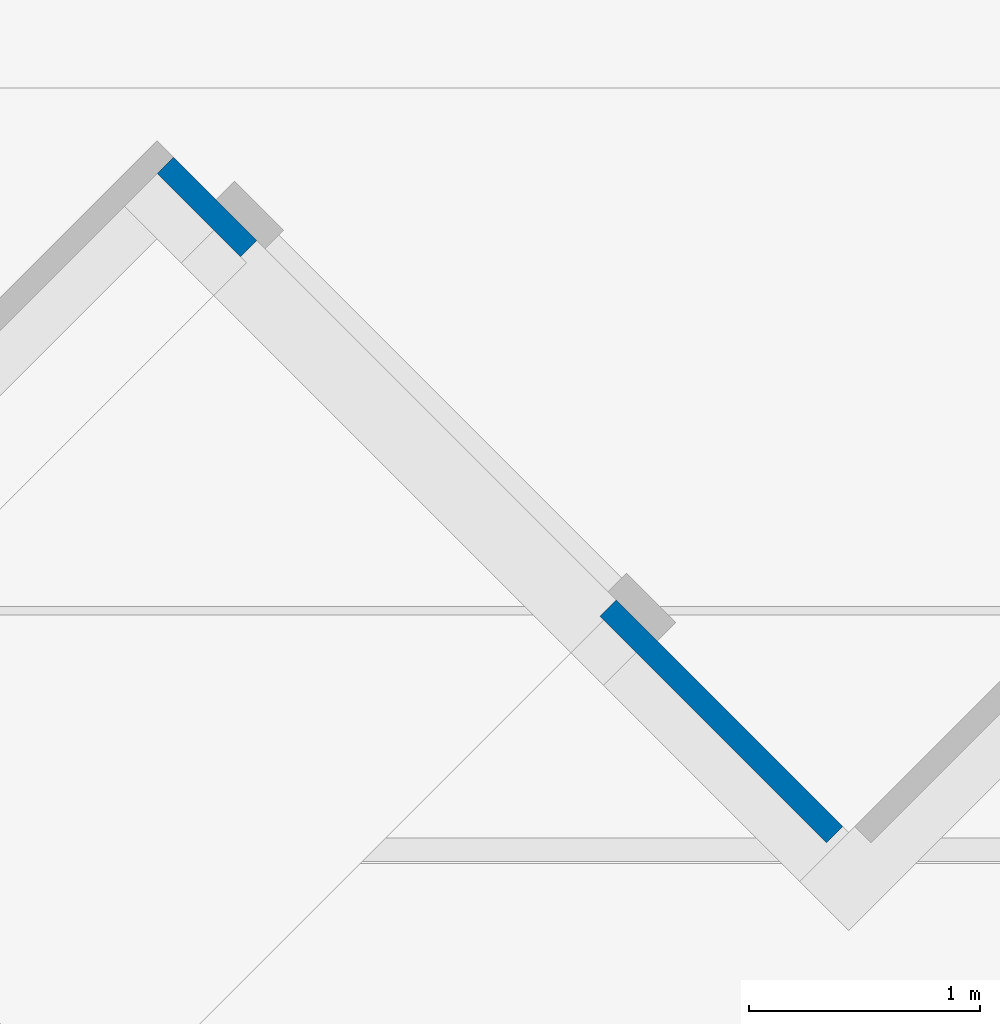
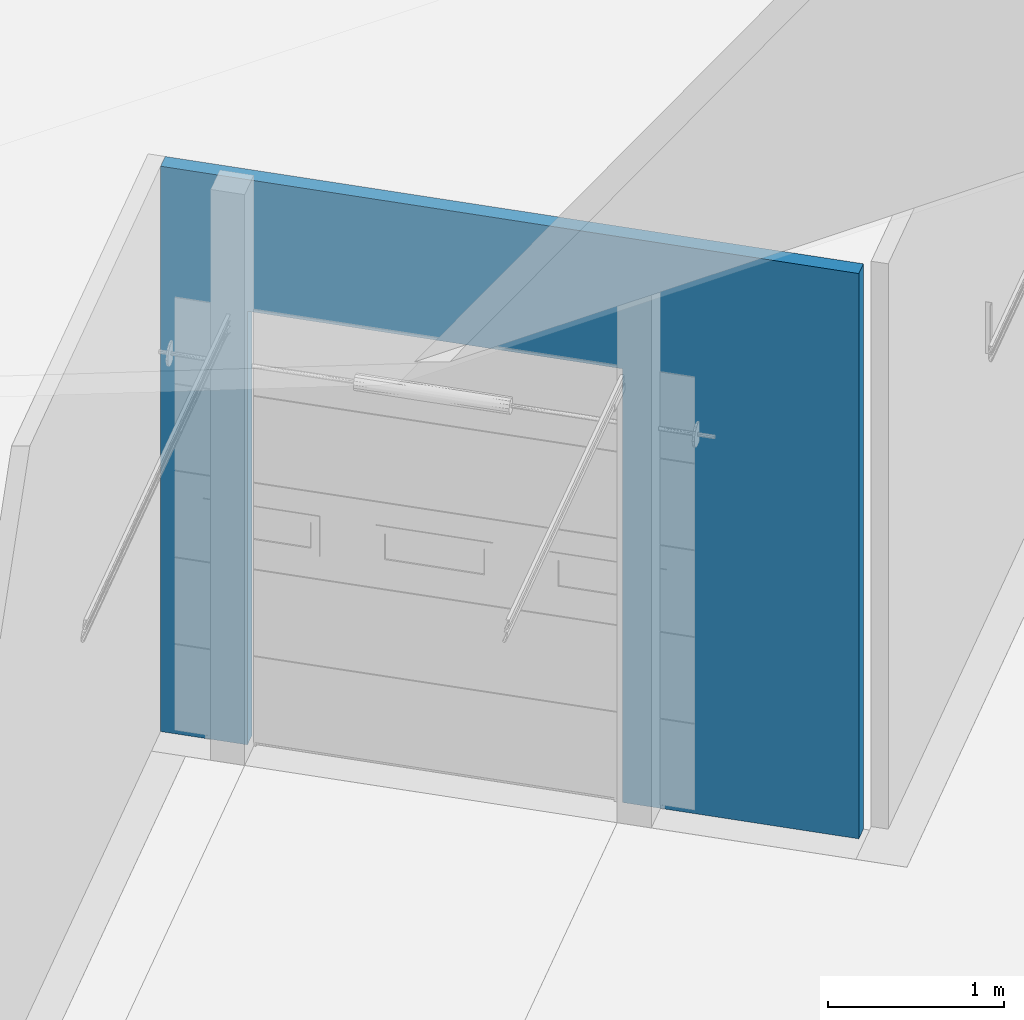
# One storey, part 28 of 64: 1 wall, 1 opening.
"""IFC2X3 building model written with IfcOpenShell, lengths in millimetres."""

from ifc_helpers import new_model, entity, si_unit, converted_unit, derived_unit, direction, frame, frame_2d, origin, place, context, subcontext, project, spatial, rectangle, extrude, material, layer, layer_set, layer_usage, type_object, element, save


model = new_model("IFC2X3")

# Units and contexts
model_context = context("Model", 3, precision=0.01, world=origin(), true_north=direction((4.05803320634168e-15, -1.0)))
body_context = subcontext(model_context, "Body", "Model", "MODEL_VIEW")
ifc_project = project(units=[si_unit("LENGTHUNIT", "METRE", prefix="MILLI"), si_unit("AREAUNIT", "SQUARE_METRE"), si_unit("VOLUMEUNIT", "CUBIC_METRE"), converted_unit("PLANEANGLEUNIT", "DEGREE", entity("IfcRatioMeasure", 0.0174532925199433), si_unit("PLANEANGLEUNIT", "RADIAN"), dimensions=[0, 0, 0, 0, 0, 0, 0]), si_unit("MASSUNIT", "GRAM", prefix="KILO"), derived_unit("MASSDENSITYUNIT", [(si_unit("MASSUNIT", "GRAM", prefix="KILO"), 1), (si_unit("LENGTHUNIT", "METRE"), -3)]), si_unit("TIMEUNIT", "SECOND"), si_unit("FREQUENCYUNIT", "HERTZ"), si_unit("THERMODYNAMICTEMPERATUREUNIT", "DEGREE_CELSIUS"), derived_unit("THERMALTRANSMITTANCEUNIT", [(si_unit("MASSUNIT", "GRAM", prefix="KILO"), 1), (si_unit("THERMODYNAMICTEMPERATUREUNIT", "KELVIN"), -1), (si_unit("TIMEUNIT", "SECOND"), -3)]), derived_unit("VOLUMETRICFLOWRATEUNIT", [(si_unit("LENGTHUNIT", "METRE"), 3), (si_unit("TIMEUNIT", "SECOND"), -1)]), si_unit("ELECTRICCURRENTUNIT", "AMPERE"), si_unit("ELECTRICVOLTAGEUNIT", "VOLT"), si_unit("POWERUNIT", "WATT"), si_unit("FORCEUNIT", "NEWTON", prefix="KILO"), si_unit("ILLUMINANCEUNIT", "LUX"), si_unit("LUMINOUSFLUXUNIT", "LUMEN"), si_unit("LUMINOUSINTENSITYUNIT", "CANDELA"), derived_unit("USERDEFINED", [(si_unit("MASSUNIT", "GRAM", prefix="KILO"), -1), (si_unit("LENGTHUNIT", "METRE"), -2), (si_unit("TIMEUNIT", "SECOND"), 3), (si_unit("LUMINOUSFLUXUNIT", "LUMEN"), 1)]), derived_unit("LINEARVELOCITYUNIT", [(si_unit("LENGTHUNIT", "METRE"), 1), (si_unit("TIMEUNIT", "SECOND"), -1)]), si_unit("PRESSUREUNIT", "PASCAL"), derived_unit("USERDEFINED", [(si_unit("LENGTHUNIT", "METRE"), -2), (si_unit("MASSUNIT", "GRAM", prefix="KILO"), 1), (si_unit("TIMEUNIT", "SECOND"), -2)])], contexts=[model_context])

# Site, building, storey
site_placement = place(None, frame((927466.849349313, 583801.882853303, 0.0), z_axis=(0.0, 0.0, 1.0), x_axis=(-1.0, 0.0, 0.0)))
site = spatial("IfcSite", under=ifc_project, at=site_placement, Name="Surface", CompositionType="ELEMENT")
building_placement = place(site_placement, origin())
building = spatial("IfcBuilding", under=site, at=building_placement, CompositionType="ELEMENT")
storey_placement = place(building_placement, frame((0.0, 0.0, 44170.0)))
storey = spatial("IfcBuildingStorey", under=building, at=storey_placement, Name="Ground FFL", CompositionType="ELEMENT", Elevation=44170.0)

# Wall, opening
ifc_material = material(Name="Isopenal")
ifc_layer = layer(ifc_material, 100.0)
ifc_layer_set = layer_set([ifc_layer], Name="Basic Wall:Isopanel")
ifc_layer_usage = layer_usage(ifc_layer_set, "AXIS2", "POSITIVE", -50.0)
wall_type = type_object("IfcWallType", Name="Basic Wall:Isopanel", PredefinedType="STANDARD", material=ifc_layer_set)
wall_placement = place(storey_placement, frame((-63032.3682835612, -30671.7403210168, 0.0), z_axis=(0.0, 0.0, 1.0), x_axis=(0.707106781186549, -0.707106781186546, 0.0)))
wall = element("IfcWallStandardCase", 1, at=wall_placement, inside=storey, type_object=wall_type, material=ifc_layer_usage, Name="Basic Wall:Isopanel", ObjectType="Basic Wall:Isopanel", context=body_context, shape_type="SweptSolid", body=[
    extrude(rectangle(XDim=4096.29211661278, YDim=100.000000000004, at=frame_2d((2048.14605830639, 9.98312543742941e-13), x_axis=(-1.0, 0.0))), origin(), (0.0, 0.0, 1.0), 3910.35154955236),
])
opening_placement = place(wall_placement, frame((1386.29211661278, -50.0, 0.0)))
element("IfcOpeningElement", 2, at=opening_placement, cuts=wall, Name="6m_Roller Shutter Doors:3000(w) x 3000(h):1", ObjectType="Opening", context=body_context, shape_type="SweptSolid", body=[
    extrude(rectangle(XDim=3000.0, YDim=2200.0, at=frame_2d((1500.0, 1100.0), x_axis=(1.0, 0.0))), frame((0.0, 0.0, 0.0), z_axis=(0.0, 1.0, 0.0), x_axis=(0.0, 0.0, 1.0)), (0.0, 0.0, 1.0), 100.0),
])

save(model, "model.ifc")
